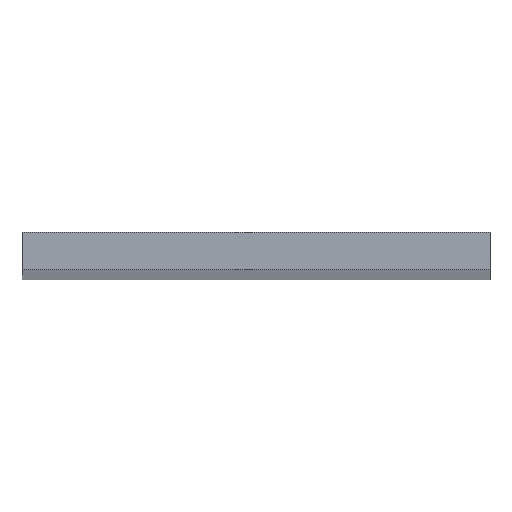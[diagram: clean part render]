
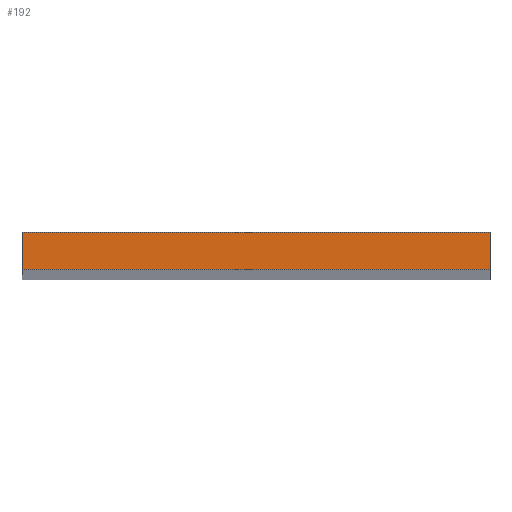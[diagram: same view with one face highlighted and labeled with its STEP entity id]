
A CAD part, top view. The second image highlights one B-rep face of the part: STEP entity #192.
In plain terms, the highlighted planar face has unit normal (0, 0, 1).
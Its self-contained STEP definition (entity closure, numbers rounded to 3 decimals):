
#4 = CARTESIAN_POINT ( 'NONE',  ( 0., 0., 302. ) ) ;
#6 = VECTOR ( 'NONE', #14, 1000. ) ;
#14 = DIRECTION ( 'NONE',  ( 0., 1., 0. ) ) ;
#26 = EDGE_CURVE ( 'NONE', #53, #64, #95, .T. ) ;
#39 = VERTEX_POINT ( 'NONE', #144 ) ;
#40 = ORIENTED_EDGE ( 'NONE', *, *, #138, .T. ) ;
#46 = FACE_OUTER_BOUND ( 'NONE', #99, .T. ) ;
#48 = LINE ( 'NONE', #87, #199 ) ;
#49 = ORIENTED_EDGE ( 'NONE', *, *, #110, .T. ) ;
#53 = VERTEX_POINT ( 'NONE', #155 ) ;
#64 = VERTEX_POINT ( 'NONE', #4 ) ;
#68 = DIRECTION ( 'NONE',  ( 1., 0., 0. ) ) ;
#72 = VECTOR ( 'NONE', #157, 1000. ) ;
#78 = CARTESIAN_POINT ( 'NONE',  ( 24., 0., 302. ) ) ;
#81 = CARTESIAN_POINT ( 'NONE',  ( 0., 0., 302. ) ) ;
#84 = DIRECTION ( 'NONE',  ( -1., 0., 0. ) ) ;
#87 = CARTESIAN_POINT ( 'NONE',  ( 0., 0., 302. ) ) ;
#89 = EDGE_CURVE ( 'NONE', #64, #176, #48, .T. ) ;
#93 = DIRECTION ( 'NONE',  ( 0., 0., -1. ) ) ;
#94 = PLANE ( 'NONE',  #108 ) ;
#95 = LINE ( 'NONE', #81, #72 ) ;
#98 = LINE ( 'NONE', #158, #135 ) ;
#99 = EDGE_LOOP ( 'NONE', ( #104, #114, #40, #49 ) ) ;
#104 = ORIENTED_EDGE ( 'NONE', *, *, #26, .T. ) ;
#108 = AXIS2_PLACEMENT_3D ( 'NONE', #140, #93, #122 ) ;
#110 = EDGE_CURVE ( 'NONE', #39, #53, #98, .T. ) ;
#111 = LINE ( 'NONE', #78, #6 ) ;
#114 = ORIENTED_EDGE ( 'NONE', *, *, #89, .T. ) ;
#122 = DIRECTION ( 'NONE',  ( -1., 0., 0. ) ) ;
#135 = VECTOR ( 'NONE', #84, 1000. ) ;
#137 = CARTESIAN_POINT ( 'NONE',  ( 24., 0., 302. ) ) ;
#138 = EDGE_CURVE ( 'NONE', #176, #39, #111, .T. ) ;
#140 = CARTESIAN_POINT ( 'NONE',  ( 0., 0., 302. ) ) ;
#144 = CARTESIAN_POINT ( 'NONE',  ( 24., 1.9, 302. ) ) ;
#155 = CARTESIAN_POINT ( 'NONE',  ( 0., 1.9, 302. ) ) ;
#157 = DIRECTION ( 'NONE',  ( 0., -1., 0. ) ) ;
#158 = CARTESIAN_POINT ( 'NONE',  ( 0., 1.9, 302. ) ) ;
#176 = VERTEX_POINT ( 'NONE', #137 ) ;
#192 = ADVANCED_FACE ( 'NONE', ( #46 ), #94, .F. ) ;
#199 = VECTOR ( 'NONE', #68, 1000. ) ;
